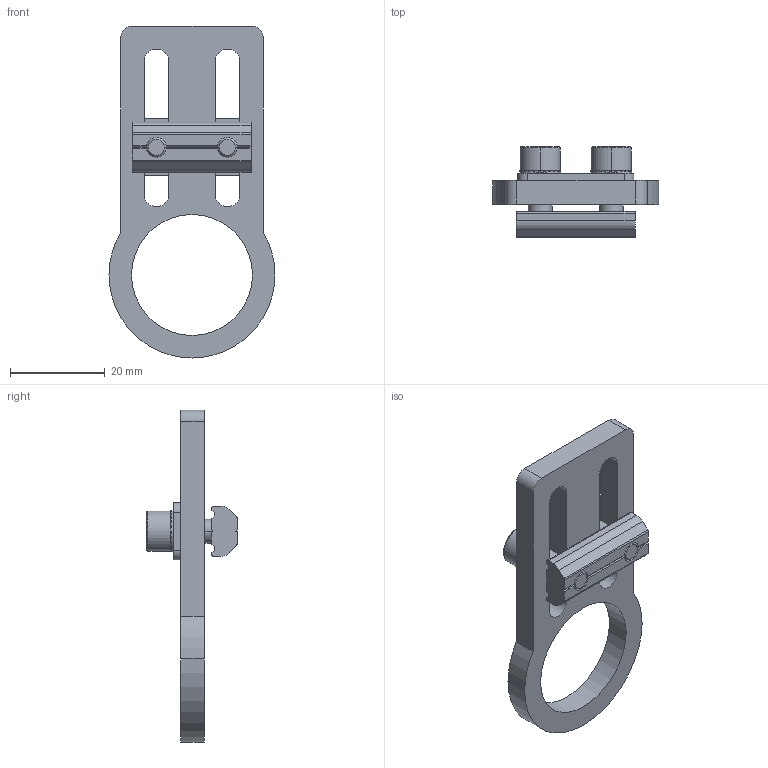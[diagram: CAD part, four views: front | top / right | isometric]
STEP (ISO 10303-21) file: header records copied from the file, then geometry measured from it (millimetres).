
FILE_DESCRIPTION (( 'STEP AP214' ), '1' );
FILE_NAME ('SMBE6-2528.STEP', '2019-11-06T02:20:50', ( '微软用户' ), ( '微软中国' ), 'SwSTEP 2.0', 'SolidWorks 2016', '' );
FILE_SCHEMA (( 'AUTOMOTIVE_DESIGN' ));
Length unit declared in the file: millimetre
Products named in the file (1): SMBE6-2528
Bounding box: 35 x 19 x 70 mm (x, y, z)
Volume: 8705.4 mm3; surface area: 7368.6 mm2
Topology: 7 solids, 7 shells, 512 faces, 1482 edges, 980 vertices
Faces by surface type: plane 447, cylinder 57, cone 4, bspline 4
Entity records: 23032 total; most frequent: CARTESIAN_POINT 3437, ORIENTED_EDGE 2964, DIRECTION 2938, EDGE_CURVE 1482, AXIS2_PLACEMENT_3D 987, VERTEX_POINT 980, LINE 964, VECTOR 964
